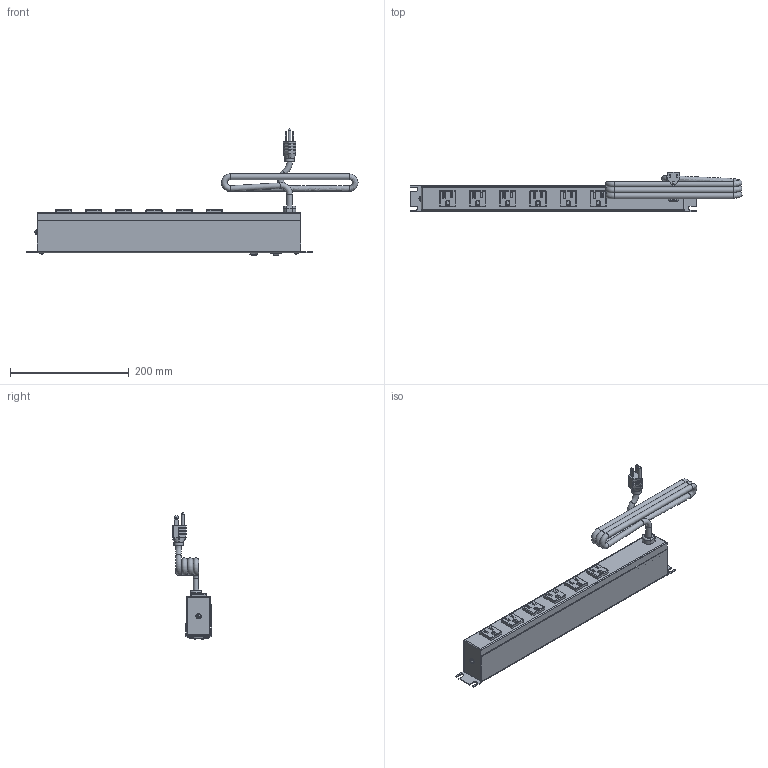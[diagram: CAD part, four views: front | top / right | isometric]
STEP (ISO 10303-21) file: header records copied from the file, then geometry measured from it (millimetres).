
FILE_DESCRIPTION((''),'2;1');
FILE_NAME('E:\Dutton\Manufacturing\drawings\Updated 2009\POWER BARS\1583 RA series\STEP''s\1583H6A1BKRA.stp','2010-01-11T07:03:23',('tfoster'),(''),'Autodesk Inventor 2010','Autodesk Inventor 2010','');
FILE_SCHEMA(('AUTOMOTIVE_DESIGN { 1 0 10303 214 1 1 1 1 }'));
Products named in the file (12): 1583H6A1BKRA; 1583 Front plate; 1583 Back Plate; #6 - 0.375 Type A screw; toothwasher; round head 1-way 8-32 x 0.5 screw; Reset Switch; Power Switch Assembly; Power Switch; Power Switch pt; Cored 2; Receptacle
Assembly tree (19 placements, depth 3):
  1583H6A1BKRA
    1583 Front plate
    1583 Back Plate
    #6 - 0.375 Type A screw  x4
    toothwasher
    round head 1-way 8-32 x 0.5 screw
    Reset Switch
    Power Switch Assembly
      Power Switch
      Power Switch pt
    Cored 2
    Receptacle  x6
Bounding box: 560.01 x 66.07 x 213.79 mm (x, y, z)
Volume: 350160.9 mm3; surface area: 300704.7 mm2
Topology: 18 solids, 18 shells, 925 faces, 2699 edges, 1812 vertices
Faces by surface type: plane 600, cylinder 170, bspline 87, sphere 30, cone 23, torus 15
Full cylindrical faces by diameter (mm): 1 x2, 1.803 x3, 1.905 x2, 2.286 x1, 2.997 x4, 3 x2, 4.3 x1, 4.775 x1, 4.801 x1, 5.563 x4, 7.849 x1, 9.5 x5, 11 x1, 15.621 x1, 19.05 x1
Entity records: 22941 total; most frequent: CARTESIAN_POINT 7879, ORIENTED_EDGE 3250, DIRECTION 2720, EDGE_CURVE 1625, VERTEX_POINT 1142, VECTOR 1042, LINE 1042, AXIS2_PLACEMENT_3D 839
